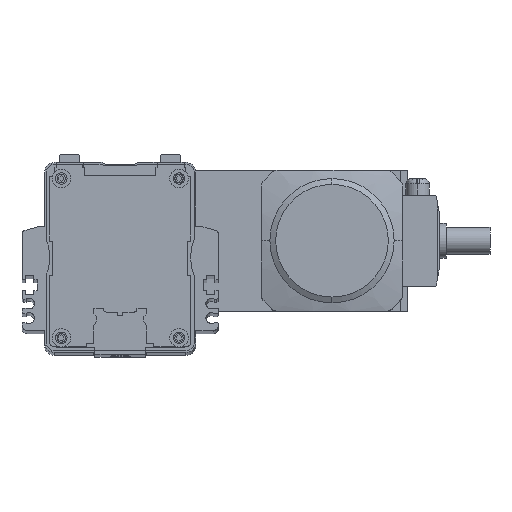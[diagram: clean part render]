
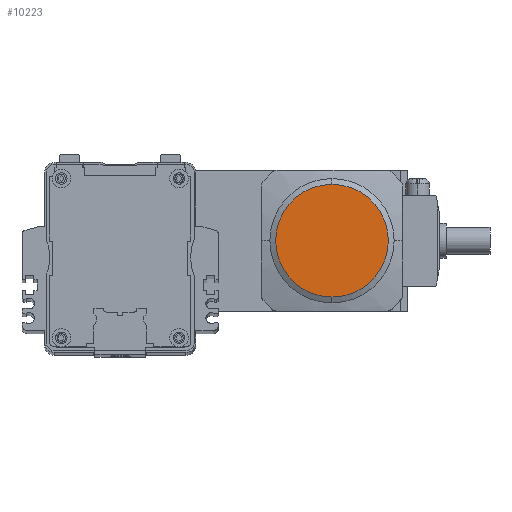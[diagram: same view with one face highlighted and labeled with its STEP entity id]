
A CAD part, top view. The second image highlights one B-rep face of the part: STEP entity #10223.
In plain terms, the highlighted planar face has unit normal (0, 0, 1).
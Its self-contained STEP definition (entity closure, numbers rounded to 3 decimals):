
#903 = CARTESIAN_POINT ( 'NONE',  ( 250.19, -4.031, 67.5 ) ) ;
#930 = CARTESIAN_POINT ( 'NONE',  ( 250.19, -4.031, 67.5 ) ) ;
#956 = DIRECTION ( 'NONE',  ( 0., -1., 0. ) ) ;
#1053 = DIRECTION ( 'NONE',  ( 0., 0., -1. ) ) ;
#1130 = DIRECTION ( 'NONE',  ( 0., -1., 0. ) ) ;
#1217 = DIRECTION ( 'NONE',  ( 0., 0., -1. ) ) ;
#1945 = EDGE_LOOP ( 'NONE', ( #12697, #12815 ) ) ;
#10223 = ADVANCED_FACE ( 'NONE', ( #19136 ), #14245, .F. ) ;
#12697 = ORIENTED_EDGE ( 'NONE', *, *, #16333, .F. ) ;
#12815 = ORIENTED_EDGE ( 'NONE', *, *, #14842, .F. ) ;
#13202 = VERTEX_POINT ( 'NONE', #14430 ) ;
#14204 = DIRECTION ( 'NONE',  ( 0., 0., -1. ) ) ;
#14206 = DIRECTION ( 'NONE',  ( 0., -1., 0. ) ) ;
#14240 = CARTESIAN_POINT ( 'NONE',  ( 250.19, -4.031, 67.5 ) ) ;
#14245 = PLANE ( 'NONE',  #27937 ) ;
#14430 = CARTESIAN_POINT ( 'NONE',  ( 250.19, -20.781, 67.5 ) ) ;
#14842 = EDGE_CURVE ( 'NONE', #30756, #13202, #25553, .T. ) ;
#16333 = EDGE_CURVE ( 'NONE', #13202, #30756, #25400, .T. ) ;
#19136 = FACE_OUTER_BOUND ( 'NONE', #1945, .T. ) ;
#25268 = AXIS2_PLACEMENT_3D ( 'NONE', #903, #1053, #1130 ) ;
#25400 = CIRCLE ( 'NONE', #25268, 16.75 ) ;
#25553 = CIRCLE ( 'NONE', #25560, 16.75 ) ;
#25560 = AXIS2_PLACEMENT_3D ( 'NONE', #930, #1217, #956 ) ;
#27937 = AXIS2_PLACEMENT_3D ( 'NONE', #14240, #14204, #14206 ) ;
#28991 = CARTESIAN_POINT ( 'NONE',  ( 250.19, 12.719, 67.5 ) ) ;
#30756 = VERTEX_POINT ( 'NONE', #28991 ) ;
